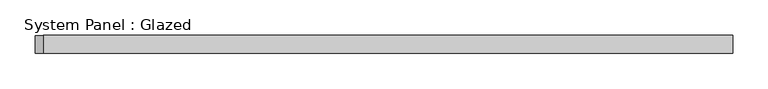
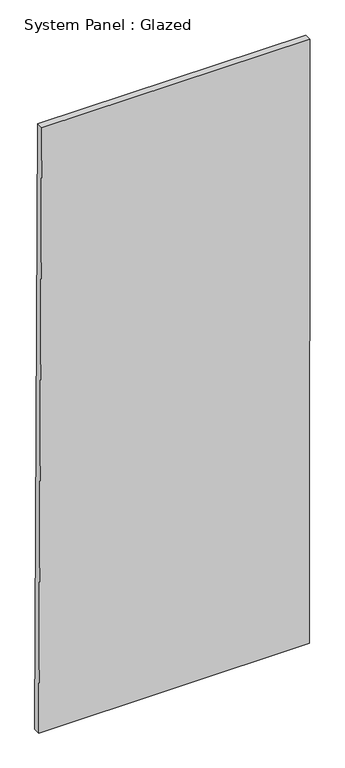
"""IFC4 building model written with IfcOpenShell, lengths in millimetres: plate geometry, System Panel : Glazed."""

from ifc_helpers import new_model, si_unit, frame, origin, place, context, project, spatial, polyline, outline, extrude, source, transform, mapped, element, save


def system_panel_glazed_610fa7a8(model_context):
    return source(origin(), model_context, "Body", "SweptSolid", [
        extrude(outline(polyline([(0.0, -492.6988914), (0.0, 490.6810368), (2319.3136671, 492.6988914), (2321.0167629, -481.9031061), (0.0, -492.6988914)])), frame((0.0, -49.5, 0.0), z_axis=(0.0, 1.0, 0.0), x_axis=(0.0, 0.0, 1.0)), (0.0, 0.0, 1.0), 25.0),
    ])


if __name__ == "__main__":
    model = new_model("IFC4")
    model_context = context("Model", 3, world=origin())
    ifc_project = project(units=[si_unit("LENGTHUNIT", "METRE", prefix="MILLI")], contexts=[model_context])
    site = spatial("IfcSite", under=ifc_project)
    building = spatial("IfcBuilding", under=site)
    placement = place(None, origin())
    system_panel_glazed_shape = system_panel_glazed_610fa7a8(model_context)
    element("IfcPlate", 1, ObjectType="System Panel : Glazed", at=placement, inside=building, context=model_context, shape_type="MappedRepresentation", body=[
        mapped(system_panel_glazed_shape, transform((0.0, 0.0, 0.0), x_axis=(1.0, 0.0, 0.0), y_axis=(0.0, 1.0, 0.0), z_axis=(0.0, 0.0, 1.0))),
    ])
    save(model, "model.ifc")
